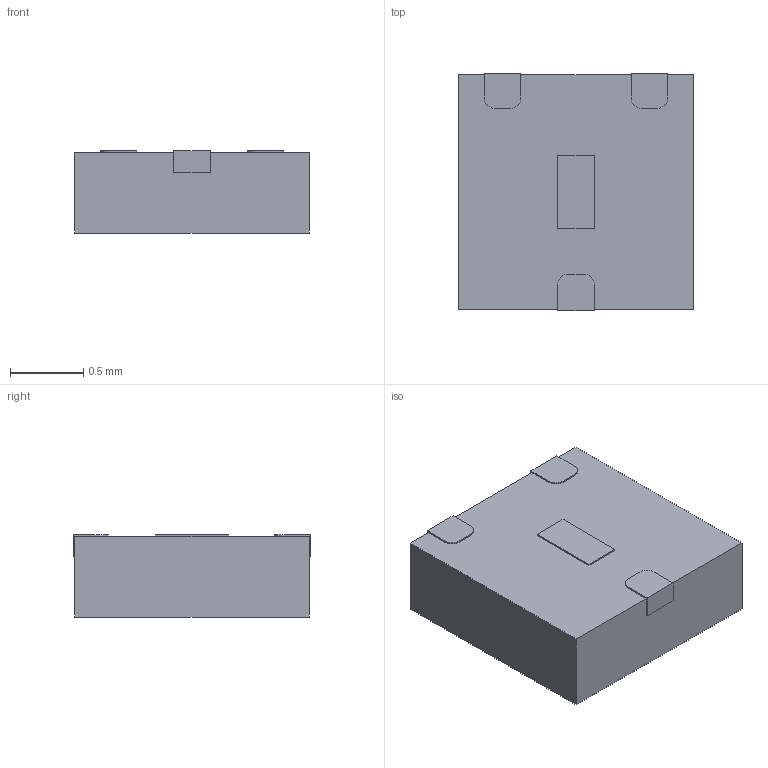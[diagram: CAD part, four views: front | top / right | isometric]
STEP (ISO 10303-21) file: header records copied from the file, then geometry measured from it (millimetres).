
FILE_DESCRIPTION(/* description */ (''),/* implementation_level */ '2;1');
FILE_NAME(/* name */ 'K:\ba\DCC\STP_Files\LLP75-4L_3906.02-015\39060215.stp',/* time_stamp */ '2015-01-08T14:31:05+01:00',/* author */ ('brotzinger'),/* organization */ (''),/* preprocessor_version */ 'ST-DEVELOPER v15.2',/* originating_system */ 'Autodesk Inventor 2014',/* authorisation */ '');
FILE_SCHEMA (('AUTOMOTIVE_DESIGN { 1 0 10303 214 3 1 1 }'));
Length unit declared in the file: millimetre
Products named in the file (1): 39060215
Bounding box: 1.6 x 1.62 x 0.56 mm (x, y, z)
Volume: 1.4 mm3; surface area: 8.7 mm2
Topology: 1 solids, 1 shells, 40 faces, 108 edges, 72 vertices
Faces by surface type: plane 34, cylinder 6
Entity records: 1281 total; most frequent: CARTESIAN_POINT 221, ORIENTED_EDGE 216, DIRECTION 202, EDGE_CURVE 108, LINE 96, VECTOR 96, VERTEX_POINT 72, AXIS2_PLACEMENT_3D 53
